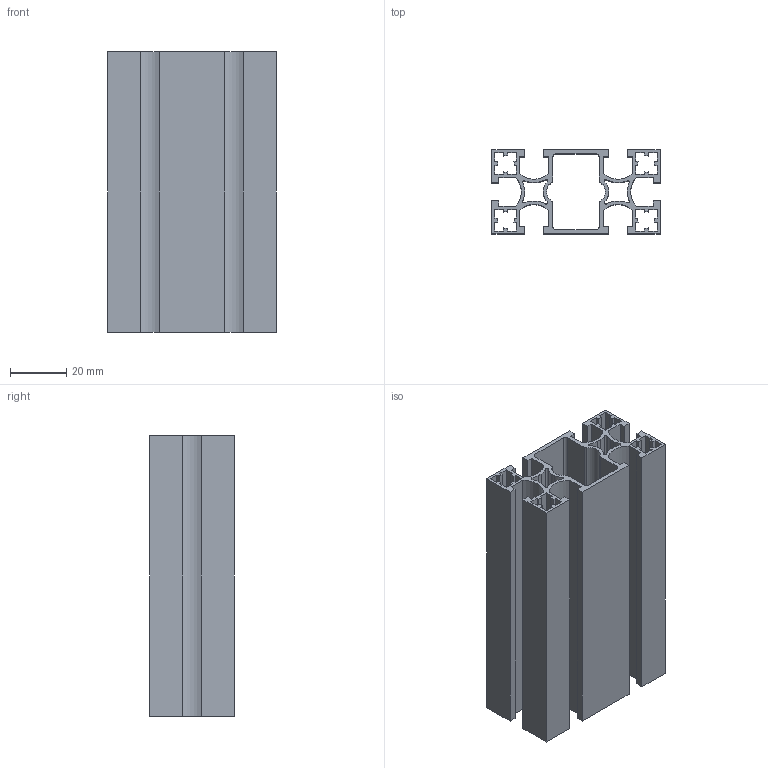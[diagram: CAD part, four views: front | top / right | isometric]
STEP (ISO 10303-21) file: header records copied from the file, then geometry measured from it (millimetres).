
FILE_DESCRIPTION (( 'STEP AP203' ), '1' );
FILE_NAME ('WS3060A-6.STEP', '2024-02-17T06:36:26', ( '' ), ( '' ), 'SwSTEP 2.0', 'SolidWorks 2022', '' );
FILE_SCHEMA (( 'CONFIG_CONTROL_DESIGN' ));
Length unit declared in the file: millimetre
Products named in the file (1): WS3060A-6
Bounding box: 60 x 30 x 100 mm (x, y, z)
Volume: 44597.9 mm3; surface area: 65776.5 mm2
Topology: 1 solids, 1 shells, 182 faces, 540 edges, 360 vertices
Faces by surface type: plane 118, cylinder 64
Entity records: 6197 total; most frequent: CARTESIAN_POINT 1083, ORIENTED_EDGE 1080, DIRECTION 1034, EDGE_CURVE 540, LINE 412, VECTOR 412, VERTEX_POINT 360, AXIS2_PLACEMENT_3D 311
